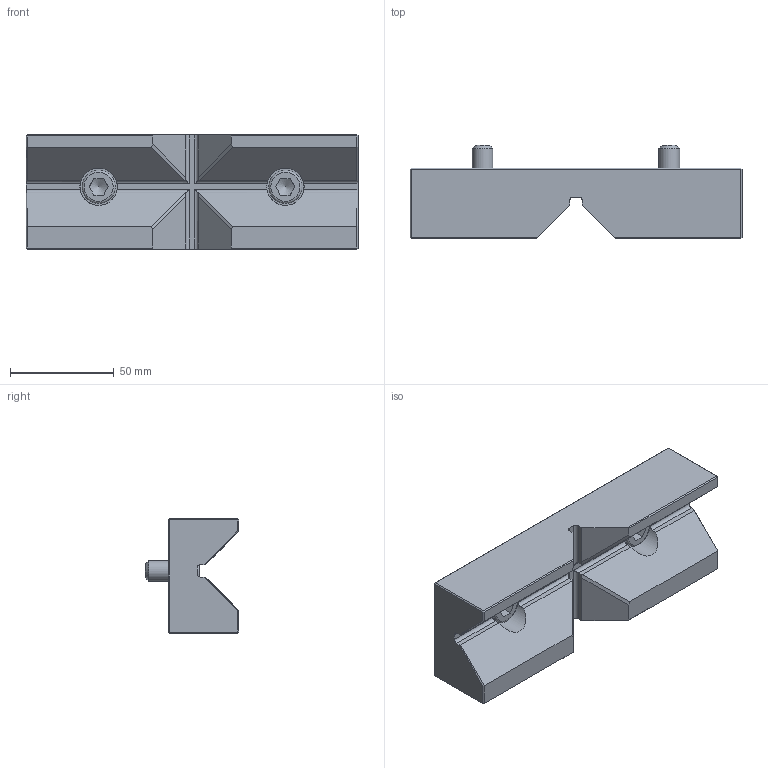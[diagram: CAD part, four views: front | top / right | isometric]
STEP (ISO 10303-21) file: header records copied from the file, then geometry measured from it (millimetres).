
FILE_DESCRIPTION(('STEP AP214'), '1');
FILE_NAME('BB.VS.160.70.020', '', ('UNSPECIFIED'), ('UNSPECIFIED'), 'C3D Converter', 'C3D Toolkit', '');
FILE_SCHEMA(('AUTOMOTIVE_DESIGN { 1 0 10303 214 3 1 1}'));
Length unit declared in the file: millimetre
Products named in the file (1): BB.VS.160.70.020 СБ
Bounding box: 160 x 45 x 55 mm (x, y, z)
Volume: 225949.8 mm3; surface area: 37985 mm2
Topology: 1 solids, 1 shells, 116 faces, 282 edges, 174 vertices
Faces by surface type: plane 84, cylinder 20, cone 8, torus 4
Full cylindrical faces by diameter (mm): 10 x2, 11 x2, 16 x2, 18 x2
Entity records: 4743 total; most frequent: CARTESIAN_POINT 1207, ORIENTED_EDGE 520, DIRECTION 502, EDGE_CURVE 260, LINE 192, VECTOR 192, VERTEX_POINT 172, AXIS2_PLACEMENT_3D 155
